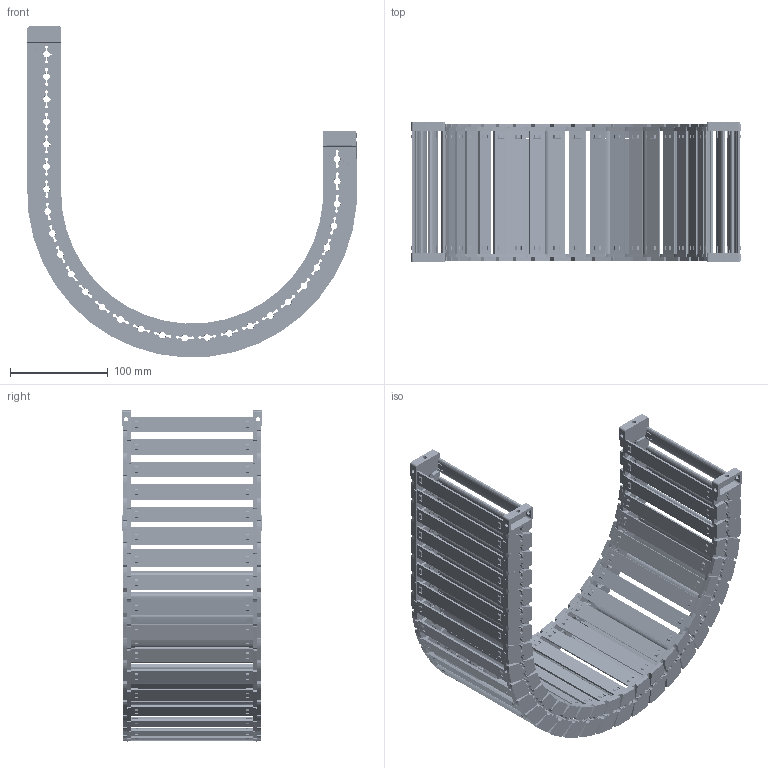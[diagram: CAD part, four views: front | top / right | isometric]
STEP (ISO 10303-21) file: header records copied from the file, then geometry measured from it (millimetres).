
FILE_DESCRIPTION((''),'2;1');
FILE_NAME('JY-28X125-R150_ASM','2026-03-25T20:40:50',('admin'),(''),'CREO PARAMETRIC BY PTC INC, 2021023','CREO PARAMETRIC BY PTC INC, 2021023','');
FILE_SCHEMA(('CONFIG_CONTROL_DESIGN'));
Length unit declared in the file: millimetre
Products named in the file (11): 28XL-L; 25-35XL-YP; 28XL-R; ASM0001_ASM; 28-LTT-A-L; 28-LTT-A-R; 28XL-LTT-A_ASM; 28-LTT-B-L; 28-LTT-B-R; 28XL-LTT-B_ASM; JY-28X125-R150_ASM
Assembly tree (42 placements, depth 3):
  JY-28X125-R150_ASM
    ASM0001_ASM  x28
      28XL-L
      25-35XL-YP
      28XL-R
    28XL-LTT-A_ASM
      28-LTT-A-L
      25-35XL-YP  x2
      28-LTT-A-R
    28XL-LTT-B_ASM
      28-LTT-B-L
      25-35XL-YP  x2
      28-LTT-B-R
Bounding box: 337.23 x 144 x 338.94 mm (x, y, z)
Volume: 690371.5 mm3; surface area: 494113.7 mm2
Topology: 120 solids, 120 shells, 9750 faces, 28988 edges, 19358 vertices
Faces by surface type: plane 6392, cone 1766, cylinder 1394, bspline 198
Entity records: 29175 total; most frequent: CARTESIAN_POINT 9500, ORIENTED_EDGE 4352, DIRECTION 3675, EDGE_CURVE 2176, VERTEX_POINT 1454, VECTOR 1365, LINE 1365, AXIS2_PLACEMENT_3D 1155
